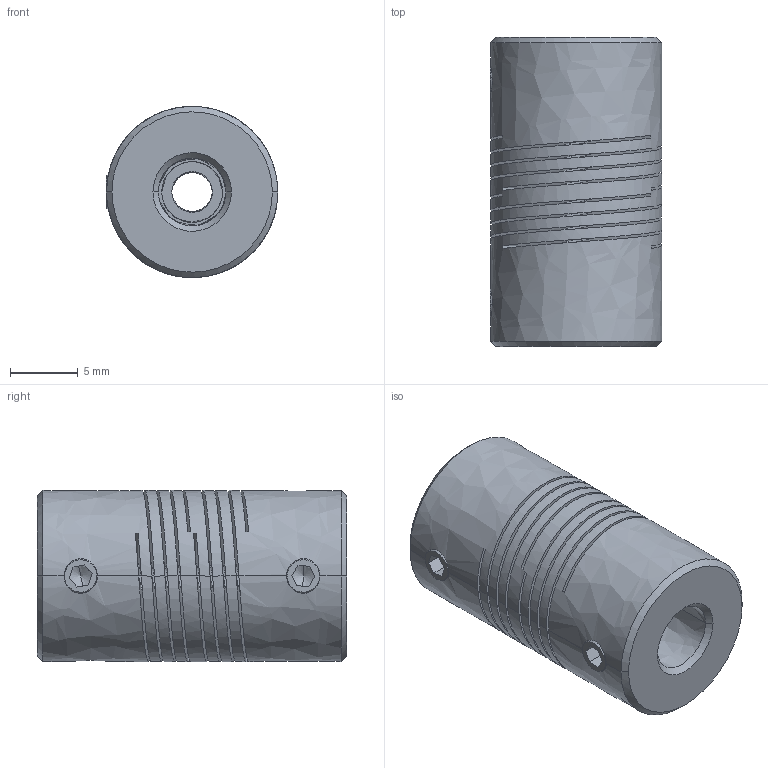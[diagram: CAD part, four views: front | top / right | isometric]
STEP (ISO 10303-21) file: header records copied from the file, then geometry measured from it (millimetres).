
FILE_DESCRIPTION((''),'2;1');
FILE_NAME('710_13','2026-02-24T',('SYSTEM'),(''),'PRO/ENGINEER BY PARAMETRIC TECHNOLOGY CORPORATION, 2016360','PRO/ENGINEER BY PARAMETRIC TECHNOLOGY CORPORATION, 2016360','');
FILE_SCHEMA(('AUTOMOTIVE_DESIGN { 1 0 10303 214 1 1 1 1 }'));
Length unit declared in the file: inch
Products named in the file (1): 710_13
Bounding box: 12.68 x 22.85 x 12.65 mm (x, y, z)
Volume: 2336.5 mm3; surface area: 3153 mm2
Topology: 1 solids, 1 shells, 100 faces, 314 edges, 204 vertices
Faces by surface type: bspline 100
Entity records: 8940 total; most frequent: CARTESIAN_POINT 6554, ORIENTED_EDGE 620, EDGE_CURVE 310, B_SPLINE_CURVE_WITH_KNOTS 206, VERTEX_POINT 204, COLOUR_RGB 111, EDGE_LOOP 106, DIRECTION 104
